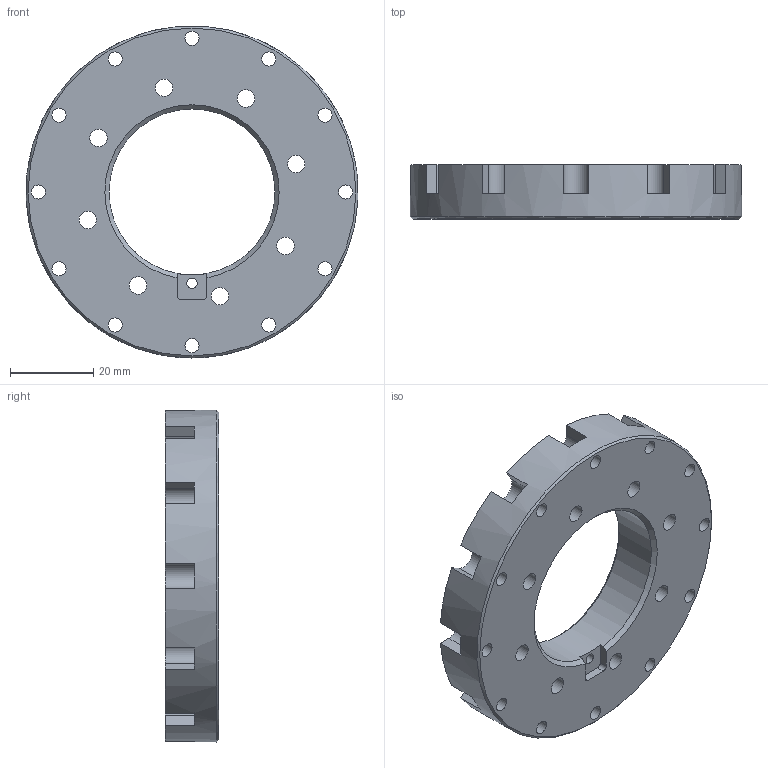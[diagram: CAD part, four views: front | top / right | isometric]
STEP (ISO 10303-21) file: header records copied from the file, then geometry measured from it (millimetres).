
FILE_DESCRIPTION (( 'STEP AP214' ), '1' );
FILE_NAME ('2-054-004 3kg三轴转接1.STEP', '2026-05-21T03:40:23', ( 'Windows User' ), ( 'P R C' ), 'SwSTEP 2.0', 'SolidWorks 2021', '' );
FILE_SCHEMA (( 'AUTOMOTIVE_DESIGN' ));
Length unit declared in the file: millimetre
Products named in the file (1): 2-054-004 3kg三轴转接1
Bounding box: 79.97 x 13 x 79.99 mm (x, y, z)
Volume: 43937.2 mm3; surface area: 14799.1 mm2
Topology: 1 solids, 1 shells, 82 faces, 241 edges, 160 vertices
Faces by surface type: plane 42, cylinder 37, cone 3
Full cylindrical faces by diameter (mm): 2.5 x1, 3.4 x12, 4.2 x8, 40 x1, 80 x1
Entity records: 2841 total; most frequent: DIRECTION 476, CARTESIAN_POINT 468, ORIENTED_EDGE 424, EDGE_CURVE 212, AXIS2_PLACEMENT_3D 184, VERTEX_POINT 156, EDGE_LOOP 150, VECTOR 108
